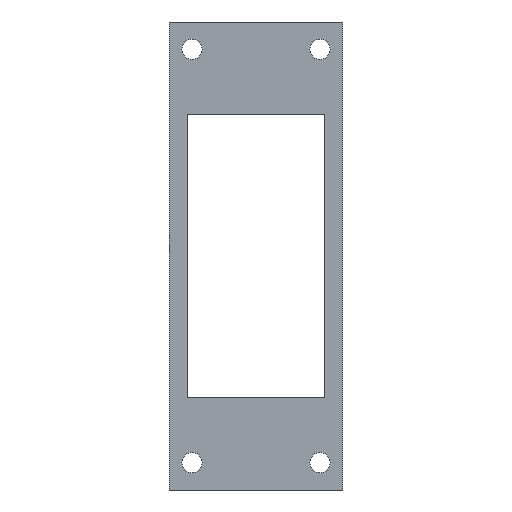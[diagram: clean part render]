
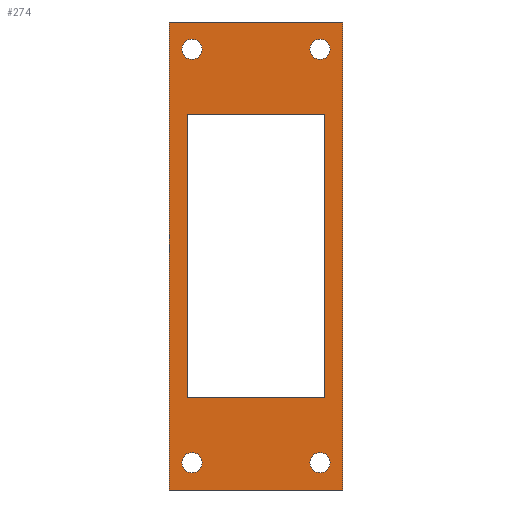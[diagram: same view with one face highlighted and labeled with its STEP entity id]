
A CAD part, front view. The second image highlights one B-rep face of the part: STEP entity #274.
In plain terms, the highlighted planar face has unit normal (0, -1, 0).
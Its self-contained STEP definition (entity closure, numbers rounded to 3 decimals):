
#19=FACE_BOUND('',#53,.T.);
#20=FACE_BOUND('',#54,.T.);
#21=FACE_BOUND('',#55,.T.);
#22=FACE_BOUND('',#56,.T.);
#23=FACE_BOUND('',#57,.T.);
#29=CIRCLE('',#303,1.1);
#30=CIRCLE('',#304,1.1);
#31=CIRCLE('',#305,1.1);
#32=CIRCLE('',#306,1.1);
#38=FACE_OUTER_BOUND('',#52,.T.);
#52=EDGE_LOOP('',(#195,#196,#197,#198));
#53=EDGE_LOOP('',(#199));
#54=EDGE_LOOP('',(#200));
#55=EDGE_LOOP('',(#201,#202,#203,#204));
#56=EDGE_LOOP('',(#205));
#57=EDGE_LOOP('',(#206));
#75=LINE('',#401,#103);
#79=LINE('',#409,#107);
#80=LINE('',#411,#108);
#81=LINE('',#412,#109);
#82=LINE('',#419,#110);
#83=LINE('',#421,#111);
#84=LINE('',#423,#112);
#85=LINE('',#424,#113);
#103=VECTOR('',#327,1.);
#107=VECTOR('',#333,1.);
#108=VECTOR('',#334,1.);
#109=VECTOR('',#335,1.);
#110=VECTOR('',#340,1.);
#111=VECTOR('',#341,1.);
#112=VECTOR('',#342,1.);
#113=VECTOR('',#343,1.);
#131=VERTEX_POINT('',#399);
#132=VERTEX_POINT('',#400);
#135=VERTEX_POINT('',#408);
#136=VERTEX_POINT('',#410);
#137=VERTEX_POINT('',#413);
#138=VERTEX_POINT('',#415);
#139=VERTEX_POINT('',#417);
#140=VERTEX_POINT('',#418);
#141=VERTEX_POINT('',#420);
#142=VERTEX_POINT('',#422);
#143=VERTEX_POINT('',#425);
#144=VERTEX_POINT('',#427);
#155=EDGE_CURVE('',#131,#132,#75,.T.);
#159=EDGE_CURVE('',#131,#135,#79,.T.);
#160=EDGE_CURVE('',#135,#136,#80,.T.);
#161=EDGE_CURVE('',#132,#136,#81,.T.);
#162=EDGE_CURVE('',#137,#137,#29,.T.);
#163=EDGE_CURVE('',#138,#138,#30,.T.);
#164=EDGE_CURVE('',#139,#140,#82,.T.);
#165=EDGE_CURVE('',#140,#141,#83,.T.);
#166=EDGE_CURVE('',#142,#141,#84,.T.);
#167=EDGE_CURVE('',#139,#142,#85,.T.);
#168=EDGE_CURVE('',#143,#143,#31,.T.);
#169=EDGE_CURVE('',#144,#144,#32,.T.);
#195=ORIENTED_EDGE('',*,*,#159,.T.);
#196=ORIENTED_EDGE('',*,*,#160,.T.);
#197=ORIENTED_EDGE('',*,*,#161,.F.);
#198=ORIENTED_EDGE('',*,*,#155,.F.);
#199=ORIENTED_EDGE('',*,*,#162,.T.);
#200=ORIENTED_EDGE('',*,*,#163,.T.);
#201=ORIENTED_EDGE('',*,*,#164,.T.);
#202=ORIENTED_EDGE('',*,*,#165,.T.);
#203=ORIENTED_EDGE('',*,*,#166,.F.);
#204=ORIENTED_EDGE('',*,*,#167,.F.);
#205=ORIENTED_EDGE('',*,*,#168,.T.);
#206=ORIENTED_EDGE('',*,*,#169,.T.);
#264=PLANE('',#302);
#274=ADVANCED_FACE('',(#38,#19,#20,#21,#22,#23),#264,.F.);
#302=AXIS2_PLACEMENT_3D('',#407,#331,#332);
#303=AXIS2_PLACEMENT_3D('',#414,#336,#337);
#304=AXIS2_PLACEMENT_3D('',#416,#338,#339);
#305=AXIS2_PLACEMENT_3D('',#426,#344,#345);
#306=AXIS2_PLACEMENT_3D('',#428,#346,#347);
#327=DIRECTION('',(0.,0.,1.));
#331=DIRECTION('center_axis',(0.,1.,0.));
#332=DIRECTION('ref_axis',(0.,0.,1.));
#333=DIRECTION('',(1.,0.,0.));
#334=DIRECTION('',(0.,0.,1.));
#335=DIRECTION('',(1.,0.,0.));
#336=DIRECTION('center_axis',(0.,1.,0.));
#337=DIRECTION('ref_axis',(0.,0.,1.));
#338=DIRECTION('center_axis',(0.,1.,0.));
#339=DIRECTION('ref_axis',(0.,0.,1.));
#340=DIRECTION('',(1.,0.,0.));
#341=DIRECTION('',(0.,0.,-1.));
#342=DIRECTION('',(1.,0.,0.));
#343=DIRECTION('',(0.,0.,-1.));
#344=DIRECTION('center_axis',(0.,1.,0.));
#345=DIRECTION('ref_axis',(0.,0.,1.));
#346=DIRECTION('center_axis',(0.,1.,0.));
#347=DIRECTION('ref_axis',(0.,0.,1.));
#399=CARTESIAN_POINT('',(-9.5,-55.15,427.4));
#400=CARTESIAN_POINT('',(-9.5,-55.15,478.6));
#401=CARTESIAN_POINT('',(-9.5,-55.15,427.4));
#407=CARTESIAN_POINT('Origin',(-9.5,-55.15,427.4));
#408=CARTESIAN_POINT('',(9.5,-55.15,427.4));
#409=CARTESIAN_POINT('',(-9.5,-55.15,427.4));
#410=CARTESIAN_POINT('',(9.5,-55.15,478.6));
#411=CARTESIAN_POINT('',(9.5,-55.15,427.4));
#412=CARTESIAN_POINT('',(-9.5,-55.15,478.6));
#413=CARTESIAN_POINT('',(-7.,-55.15,429.3));
#414=CARTESIAN_POINT('Origin',(-7.,-55.15,430.4));
#415=CARTESIAN_POINT('',(-7.,-55.15,474.5));
#416=CARTESIAN_POINT('Origin',(-7.,-55.15,475.6));
#417=CARTESIAN_POINT('',(-7.5,-55.15,468.5));
#418=CARTESIAN_POINT('',(7.5,-55.15,468.5));
#419=CARTESIAN_POINT('',(-8.5,-55.15,468.5));
#420=CARTESIAN_POINT('',(7.5,-55.15,437.5));
#421=CARTESIAN_POINT('',(7.5,-55.15,432.45));
#422=CARTESIAN_POINT('',(-7.5,-55.15,437.5));
#423=CARTESIAN_POINT('',(-8.5,-55.15,437.5));
#424=CARTESIAN_POINT('',(-7.5,-55.15,432.45));
#425=CARTESIAN_POINT('',(7.,-55.15,429.3));
#426=CARTESIAN_POINT('Origin',(7.,-55.15,430.4));
#427=CARTESIAN_POINT('',(7.,-55.15,474.5));
#428=CARTESIAN_POINT('Origin',(7.,-55.15,475.6));
